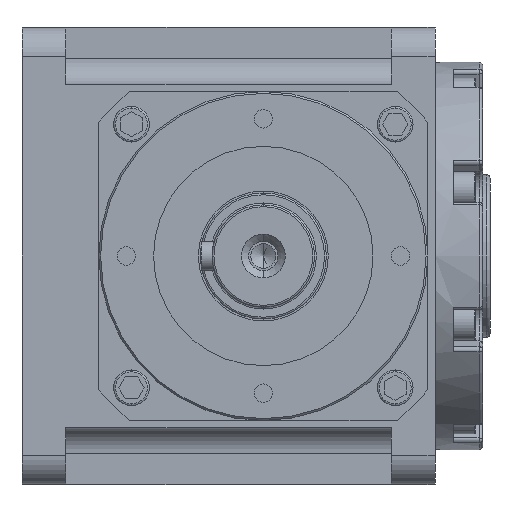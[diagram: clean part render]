
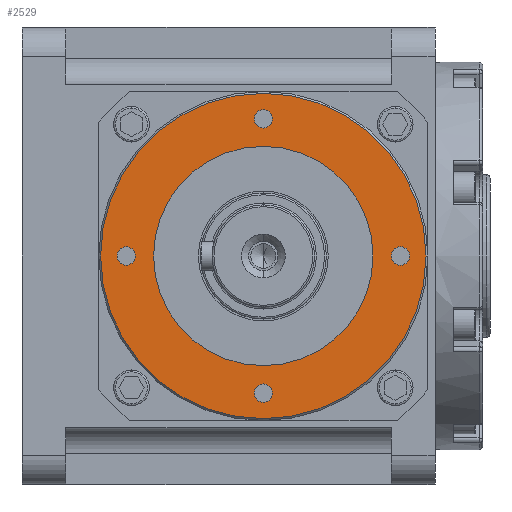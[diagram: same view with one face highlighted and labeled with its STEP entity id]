
A CAD part, front view. The second image highlights one B-rep face of the part: STEP entity #2529.
In plain terms, the highlighted planar face has unit normal (0, -1, 0) as drawn and (0, 1, 0) by its records, which use the part's own axes.
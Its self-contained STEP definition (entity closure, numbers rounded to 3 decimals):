
#64 = CARTESIAN_POINT ( 'NONE',  ( 0., 39., 37.5 ) ) ;
#97 = FACE_BOUND ( 'NONE', #9477, .T. ) ;
#107 = DIRECTION ( 'NONE',  ( 0., 0., 1. ) ) ;
#199 = VERTEX_POINT ( 'NONE', #1102 ) ;
#223 = AXIS2_PLACEMENT_3D ( 'NONE', #9711, #6392, #12696 ) ;
#626 = EDGE_CURVE ( 'NONE', #11611, #11355, #2057, .T. ) ;
#740 = CIRCLE ( 'NONE', #6602, 30. ) ;
#790 = CARTESIAN_POINT ( 'NONE',  ( -37.5, 39., 0. ) ) ;
#919 = PLANE ( 'NONE',  #6264 ) ;
#939 = CIRCLE ( 'NONE', #10468, 2.5 ) ;
#1102 = CARTESIAN_POINT ( 'NONE',  ( 0., 39., 35. ) ) ;
#1113 = CIRCLE ( 'NONE', #1765, 2.5 ) ;
#1127 = EDGE_CURVE ( 'NONE', #5167, #12844, #9318, .T. ) ;
#1141 = CARTESIAN_POINT ( 'NONE',  ( 0., 39., 37.5 ) ) ;
#1144 = EDGE_LOOP ( 'NONE', ( #5073, #11033 ) ) ;
#1181 = CARTESIAN_POINT ( 'NONE',  ( 0., 39., 0. ) ) ;
#1558 = CARTESIAN_POINT ( 'NONE',  ( 37.5, 39., -2.5 ) ) ;
#1765 = AXIS2_PLACEMENT_3D ( 'NONE', #6435, #4309, #3313 ) ;
#1839 = EDGE_CURVE ( 'NONE', #12318, #199, #4785, .T. ) ;
#1856 = CARTESIAN_POINT ( 'NONE',  ( -37.5, 39., -2.5 ) ) ;
#2020 = AXIS2_PLACEMENT_3D ( 'NONE', #9064, #3700, #9941 ) ;
#2057 = CIRCLE ( 'NONE', #8112, 2.5 ) ;
#2124 = EDGE_CURVE ( 'NONE', #7453, #6148, #11545, .T. ) ;
#2333 = ORIENTED_EDGE ( 'NONE', *, *, #1127, .F. ) ;
#2529 = ADVANCED_FACE ( 'NONE', ( #12314, #13274, #6151, #97, #6066, #10208 ), #919, .T. ) ;
#2530 = CARTESIAN_POINT ( 'NONE',  ( 0., 39., 40. ) ) ;
#2547 = CARTESIAN_POINT ( 'NONE',  ( 0., 39., -44.5 ) ) ;
#2735 = CARTESIAN_POINT ( 'NONE',  ( -37.5, 39., 2.5 ) ) ;
#3043 = CARTESIAN_POINT ( 'NONE',  ( 0., 39., 30. ) ) ;
#3313 = DIRECTION ( 'NONE',  ( 0., 0., 1. ) ) ;
#3324 = EDGE_CURVE ( 'NONE', #12764, #12007, #11519, .T. ) ;
#3367 = CARTESIAN_POINT ( 'NONE',  ( 0., 39., -40. ) ) ;
#3655 = CARTESIAN_POINT ( 'NONE',  ( 37.5, 39., 2.5 ) ) ;
#3700 = DIRECTION ( 'NONE',  ( 0., 1., 0. ) ) ;
#3781 = ORIENTED_EDGE ( 'NONE', *, *, #4415, .F. ) ;
#3903 = CARTESIAN_POINT ( 'NONE',  ( 0., 39., -30. ) ) ;
#4025 = DIRECTION ( 'NONE',  ( 0., 0., 1. ) ) ;
#4050 = EDGE_LOOP ( 'NONE', ( #11692, #8389 ) ) ;
#4227 = CARTESIAN_POINT ( 'NONE',  ( 0., 39., 0. ) ) ;
#4237 = DIRECTION ( 'NONE',  ( 0., 1., 0. ) ) ;
#4309 = DIRECTION ( 'NONE',  ( 0., 1., 0. ) ) ;
#4377 = EDGE_LOOP ( 'NONE', ( #6461, #7964 ) ) ;
#4415 = EDGE_CURVE ( 'NONE', #12844, #5167, #9167, .T. ) ;
#4453 = DIRECTION ( 'NONE',  ( 0., 1., 0. ) ) ;
#4590 = AXIS2_PLACEMENT_3D ( 'NONE', #1181, #9400, #4025 ) ;
#4785 = CIRCLE ( 'NONE', #10205, 2.5 ) ;
#4928 = DIRECTION ( 'NONE',  ( 0., 1., 0. ) ) ;
#5073 = ORIENTED_EDGE ( 'NONE', *, *, #11184, .F. ) ;
#5093 = CARTESIAN_POINT ( 'NONE',  ( 37.5, 39., 0. ) ) ;
#5167 = VERTEX_POINT ( 'NONE', #6329 ) ;
#5339 = DIRECTION ( 'NONE',  ( 0., 1., 0. ) ) ;
#5396 = CARTESIAN_POINT ( 'NONE',  ( 0., 39., 44.5 ) ) ;
#6066 = FACE_BOUND ( 'NONE', #12128, .T. ) ;
#6148 = VERTEX_POINT ( 'NONE', #2735 ) ;
#6151 = FACE_BOUND ( 'NONE', #1144, .T. ) ;
#6264 = AXIS2_PLACEMENT_3D ( 'NONE', #4227, #12390, #8321 ) ;
#6329 = CARTESIAN_POINT ( 'NONE',  ( 0., 39., -35. ) ) ;
#6338 = CIRCLE ( 'NONE', #4590, 30. ) ;
#6385 = DIRECTION ( 'NONE',  ( 0., 0., 1. ) ) ;
#6392 = DIRECTION ( 'NONE',  ( 0., 1., 0. ) ) ;
#6435 = CARTESIAN_POINT ( 'NONE',  ( -37.5, 39., 0. ) ) ;
#6461 = ORIENTED_EDGE ( 'NONE', *, *, #8313, .T. ) ;
#6602 = AXIS2_PLACEMENT_3D ( 'NONE', #9103, #13234, #8215 ) ;
#6643 = EDGE_LOOP ( 'NONE', ( #6680, #6769 ) ) ;
#6651 = EDGE_CURVE ( 'NONE', #7718, #9233, #740, .T. ) ;
#6680 = ORIENTED_EDGE ( 'NONE', *, *, #626, .F. ) ;
#6769 = ORIENTED_EDGE ( 'NONE', *, *, #10845, .F. ) ;
#7010 = DIRECTION ( 'NONE',  ( 0., 0., 1. ) ) ;
#7386 = DIRECTION ( 'NONE',  ( 0., 1., 0. ) ) ;
#7453 = VERTEX_POINT ( 'NONE', #1856 ) ;
#7598 = CIRCLE ( 'NONE', #223, 2.5 ) ;
#7660 = DIRECTION ( 'NONE',  ( 0., 0., 1. ) ) ;
#7718 = VERTEX_POINT ( 'NONE', #3043 ) ;
#7964 = ORIENTED_EDGE ( 'NONE', *, *, #3324, .T. ) ;
#8112 = AXIS2_PLACEMENT_3D ( 'NONE', #5093, #7386, #11527 ) ;
#8215 = DIRECTION ( 'NONE',  ( 0., 0., 1. ) ) ;
#8309 = AXIS2_PLACEMENT_3D ( 'NONE', #790, #4928, #13213 ) ;
#8313 = EDGE_CURVE ( 'NONE', #12007, #12764, #8646, .T. ) ;
#8321 = DIRECTION ( 'NONE',  ( 0., 0., 1. ) ) ;
#8386 = DIRECTION ( 'NONE',  ( 0., 0., 1. ) ) ;
#8389 = ORIENTED_EDGE ( 'NONE', *, *, #12829, .F. ) ;
#8646 = CIRCLE ( 'NONE', #11895, 44.5 ) ;
#8879 = AXIS2_PLACEMENT_3D ( 'NONE', #11704, #4237, #8386 ) ;
#9064 = CARTESIAN_POINT ( 'NONE',  ( 0., 39., -37.5 ) ) ;
#9103 = CARTESIAN_POINT ( 'NONE',  ( 0., 39., 0. ) ) ;
#9142 = ORIENTED_EDGE ( 'NONE', *, *, #12218, .F. ) ;
#9154 = ORIENTED_EDGE ( 'NONE', *, *, #6651, .F. ) ;
#9167 = CIRCLE ( 'NONE', #2020, 2.5 ) ;
#9233 = VERTEX_POINT ( 'NONE', #3903 ) ;
#9318 = CIRCLE ( 'NONE', #8879, 2.5 ) ;
#9400 = DIRECTION ( 'NONE',  ( 0., 1., 0. ) ) ;
#9477 = EDGE_LOOP ( 'NONE', ( #2333, #3781 ) ) ;
#9697 = CARTESIAN_POINT ( 'NONE',  ( 0., 39., 0. ) ) ;
#9711 = CARTESIAN_POINT ( 'NONE',  ( 37.5, 39., 0. ) ) ;
#9941 = DIRECTION ( 'NONE',  ( 0., 0., 1. ) ) ;
#10177 = AXIS2_PLACEMENT_3D ( 'NONE', #9697, #4453, #7660 ) ;
#10205 = AXIS2_PLACEMENT_3D ( 'NONE', #64, #11335, #6385 ) ;
#10208 = FACE_OUTER_BOUND ( 'NONE', #4377, .T. ) ;
#10468 = AXIS2_PLACEMENT_3D ( 'NONE', #1141, #5339, #107 ) ;
#10845 = EDGE_CURVE ( 'NONE', #11355, #11611, #7598, .T. ) ;
#11033 = ORIENTED_EDGE ( 'NONE', *, *, #2124, .F. ) ;
#11063 = DIRECTION ( 'NONE',  ( 0., 1., 0. ) ) ;
#11184 = EDGE_CURVE ( 'NONE', #6148, #7453, #1113, .T. ) ;
#11335 = DIRECTION ( 'NONE',  ( 0., 1., 0. ) ) ;
#11355 = VERTEX_POINT ( 'NONE', #1558 ) ;
#11519 = CIRCLE ( 'NONE', #10177, 44.5 ) ;
#11527 = DIRECTION ( 'NONE',  ( 0., 0., 1. ) ) ;
#11545 = CIRCLE ( 'NONE', #8309, 2.5 ) ;
#11611 = VERTEX_POINT ( 'NONE', #3655 ) ;
#11692 = ORIENTED_EDGE ( 'NONE', *, *, #1839, .F. ) ;
#11704 = CARTESIAN_POINT ( 'NONE',  ( 0., 39., -37.5 ) ) ;
#11895 = AXIS2_PLACEMENT_3D ( 'NONE', #12909, #11063, #7010 ) ;
#12007 = VERTEX_POINT ( 'NONE', #2547 ) ;
#12128 = EDGE_LOOP ( 'NONE', ( #9154, #9142 ) ) ;
#12218 = EDGE_CURVE ( 'NONE', #9233, #7718, #6338, .T. ) ;
#12314 = FACE_BOUND ( 'NONE', #6643, .T. ) ;
#12318 = VERTEX_POINT ( 'NONE', #2530 ) ;
#12390 = DIRECTION ( 'NONE',  ( 0., 1., 0. ) ) ;
#12696 = DIRECTION ( 'NONE',  ( 0., 0., 1. ) ) ;
#12764 = VERTEX_POINT ( 'NONE', #5396 ) ;
#12829 = EDGE_CURVE ( 'NONE', #199, #12318, #939, .T. ) ;
#12844 = VERTEX_POINT ( 'NONE', #3367 ) ;
#12909 = CARTESIAN_POINT ( 'NONE',  ( 0., 39., 0. ) ) ;
#13213 = DIRECTION ( 'NONE',  ( 0., 0., 1. ) ) ;
#13234 = DIRECTION ( 'NONE',  ( 0., 1., 0. ) ) ;
#13274 = FACE_BOUND ( 'NONE', #4050, .T. ) ;
